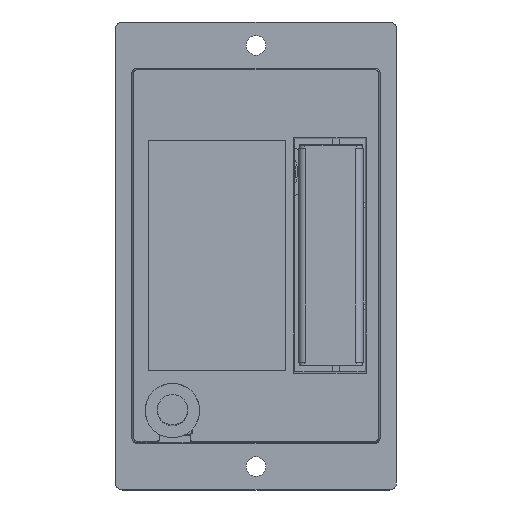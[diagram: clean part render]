
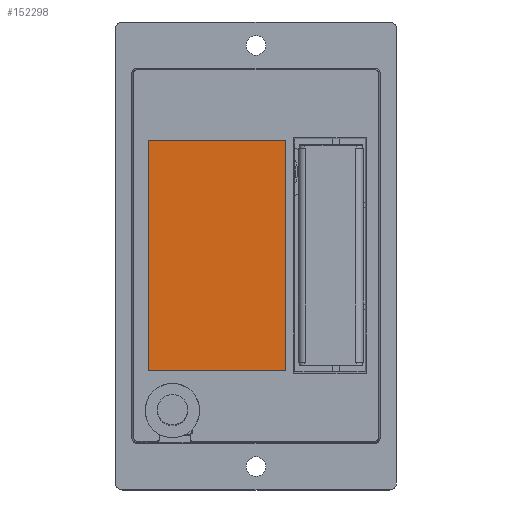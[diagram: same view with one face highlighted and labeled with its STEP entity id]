
A CAD part, top view. The second image highlights one B-rep face of the part: STEP entity #152298.
In plain terms, the highlighted planar face has unit normal (0, 0, 1).
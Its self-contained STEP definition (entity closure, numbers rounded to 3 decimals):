
#8172 = VECTOR ( 'NONE', #123036, 1000. ) ;
#8483 = DIRECTION ( 'NONE',  ( 1., 0., 0. ) ) ;
#11621 = CARTESIAN_POINT ( 'NONE',  ( -22.943, 24.574, 76.5 ) ) ;
#15521 = CARTESIAN_POINT ( 'NONE',  ( 6.205, 0., 76.5 ) ) ;
#15937 = EDGE_CURVE ( 'NONE', #36458, #176987, #96184, .T. ) ;
#22335 = CARTESIAN_POINT ( 'NONE',  ( 0., -24.574, 76.5 ) ) ;
#36458 = VERTEX_POINT ( 'NONE', #11621 ) ;
#48255 = LINE ( 'NONE', #22335, #54989 ) ;
#49902 = ORIENTED_EDGE ( 'NONE', *, *, #157281, .F. ) ;
#51249 = ORIENTED_EDGE ( 'NONE', *, *, #93936, .T. ) ;
#54989 = VECTOR ( 'NONE', #8483, 1000. ) ;
#57552 = CARTESIAN_POINT ( 'NONE',  ( -22.943, -24.574, 76.5 ) ) ;
#59775 = ORIENTED_EDGE ( 'NONE', *, *, #15937, .F. ) ;
#60081 = EDGE_CURVE ( 'NONE', #36458, #65534, #100115, .T. ) ;
#65534 = VERTEX_POINT ( 'NONE', #57552 ) ;
#67522 = DIRECTION ( 'NONE',  ( 0., 0., 1. ) ) ;
#72771 = DIRECTION ( 'NONE',  ( 0., -1., 0. ) ) ;
#79542 = FACE_OUTER_BOUND ( 'NONE', #118032, .T. ) ;
#80720 = VECTOR ( 'NONE', #72771, 1000. ) ;
#82279 = VERTEX_POINT ( 'NONE', #163362 ) ;
#84451 = CARTESIAN_POINT ( 'NONE',  ( -22.943, 0., 76.5 ) ) ;
#87497 = LINE ( 'NONE', #15521, #80720 ) ;
#93936 = EDGE_CURVE ( 'NONE', #65534, #82279, #48255, .T. ) ;
#94290 = PLANE ( 'NONE',  #147622 ) ;
#96184 = LINE ( 'NONE', #180314, #8172 ) ;
#100115 = LINE ( 'NONE', #84451, #138149 ) ;
#107260 = CARTESIAN_POINT ( 'NONE',  ( 0., 0., 76.5 ) ) ;
#110155 = CARTESIAN_POINT ( 'NONE',  ( 6.205, 24.574, 76.5 ) ) ;
#118032 = EDGE_LOOP ( 'NONE', ( #51249, #49902, #59775, #170157 ) ) ;
#123036 = DIRECTION ( 'NONE',  ( 1., 0., 0. ) ) ;
#138149 = VECTOR ( 'NONE', #171265, 1000. ) ;
#147622 = AXIS2_PLACEMENT_3D ( 'NONE', #107260, #67522, #163660 ) ;
#152298 = ADVANCED_FACE ( 'NONE', ( #79542 ), #94290, .T. ) ;
#157281 = EDGE_CURVE ( 'NONE', #176987, #82279, #87497, .T. ) ;
#163362 = CARTESIAN_POINT ( 'NONE',  ( 6.205, -24.574, 76.5 ) ) ;
#163660 = DIRECTION ( 'NONE',  ( 1., 0., 0. ) ) ;
#170157 = ORIENTED_EDGE ( 'NONE', *, *, #60081, .T. ) ;
#171265 = DIRECTION ( 'NONE',  ( 0., -1., 0. ) ) ;
#176987 = VERTEX_POINT ( 'NONE', #110155 ) ;
#180314 = CARTESIAN_POINT ( 'NONE',  ( 0., 24.574, 76.5 ) ) ;
